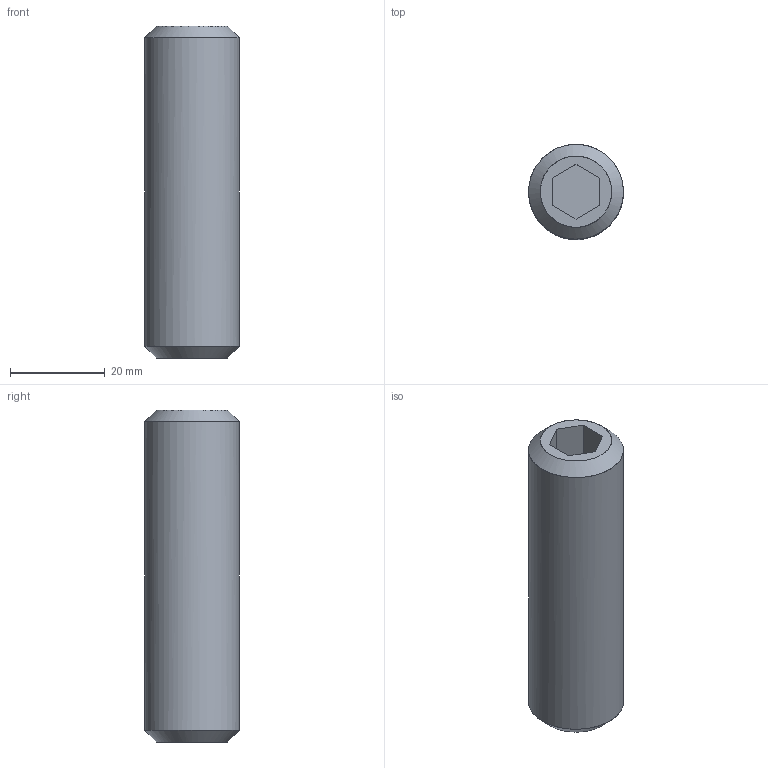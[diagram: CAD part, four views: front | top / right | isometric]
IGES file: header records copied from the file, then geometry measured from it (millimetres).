
Global section: file name: E:\UnigraphicsGraphicData\MISUMI_MOLD-PARTS\NX\3d_ai20_00908_r00.igs; native system: NX V5.0; preprocessor: UGS NX IGES V5.0; author: MISUMI; date: 20101115.182440; units: millimetre
Bounding box: 20 x 20 x 70 mm (x, y, z)
Surface area: 5528.9 mm2 (no closed solid volume)
Topology: 0 solids, 0 shells, 19 faces, 101 edges, 96 vertices
Faces by surface type: bspline 19
